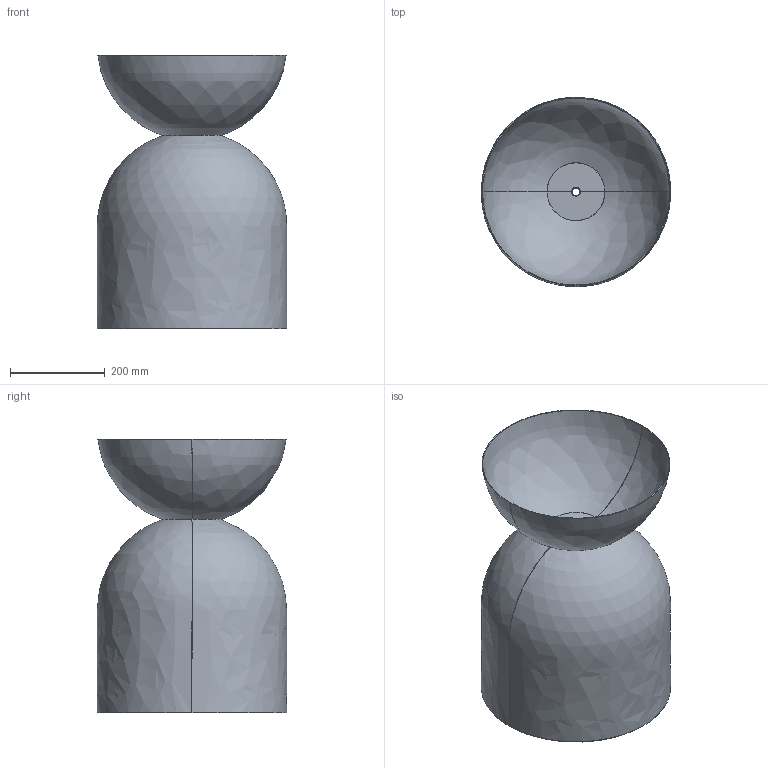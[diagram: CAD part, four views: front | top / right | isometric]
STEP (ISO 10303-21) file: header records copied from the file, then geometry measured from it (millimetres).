
FILE_DESCRIPTION(/* description */ (''),/* implementation_level */ '2;1');
FILE_NAME(/* name */ 'HMDKLI~G',/* time_stamp */ '2019-03-20T15:40:03+01:00',/* author */ (''),/* organization */ (''),/* preprocessor_version */ 'ST-DEVELOPER v16.5',/* originating_system */ '',/* authorisation */ '');
FILE_SCHEMA (('AUTOMOTIVE_DESIGN'));
Length unit declared in the file: millimetre
Products named in the file (1): Document
Bounding box: 400 x 400 x 577.42 mm (x, y, z)
Volume: 1108936.1 mm3; surface area: 1484252.9 mm2
Topology: 1 solids, 1 shells, 26 faces, 52 edges, 26 vertices
Faces by surface type: bspline 26
Entity records: 869 total; most frequent: CARTESIAN_POINT 566, ORIENTED_EDGE 104, EDGE_CURVE 52, ADVANCED_FACE 26, FACE_OUTER_BOUND 26, EDGE_LOOP 26, VERTEX_POINT 26, B_SPLINE_CURVE_WITH_KNOTS 18
